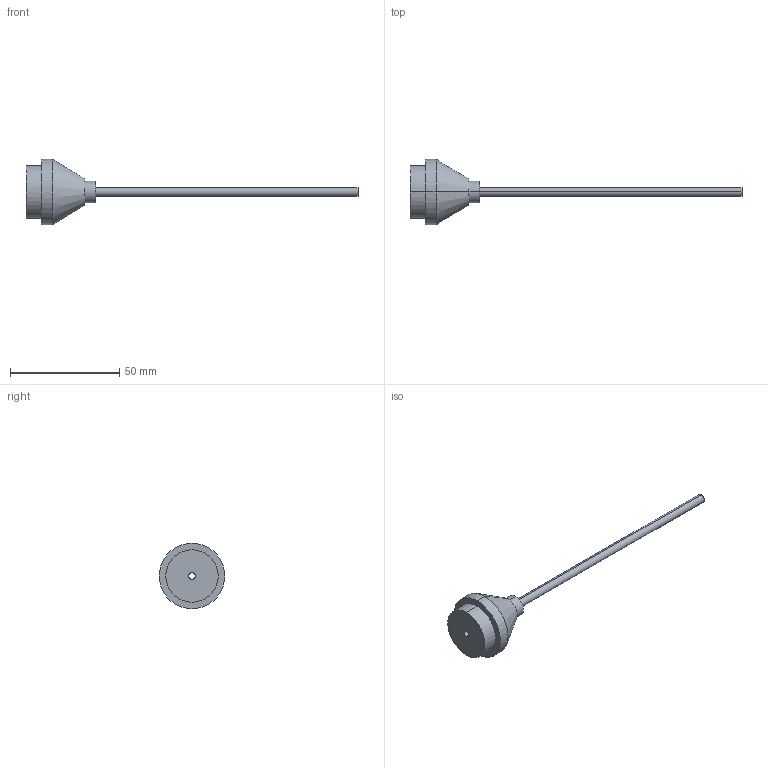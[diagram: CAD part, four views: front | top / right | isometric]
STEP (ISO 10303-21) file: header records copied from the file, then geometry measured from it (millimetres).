
FILE_DESCRIPTION (( 'STEP AP203' ), '1' );
FILE_NAME ('ER-AS12.STEP', '2005-09-05T07:15:30', ( '' ), ( '' ), 'SwSTEP 2.0', 'SolidWorks 2004073', '' );
FILE_SCHEMA (( 'CONFIG_CONTROL_DESIGN' ));
Length unit declared in the file: millimetre
Products named in the file (1): ER-AS12
Bounding box: 152 x 30 x 30 mm (x, y, z)
Volume: 13040.8 mm3; surface area: 6056.5 mm2
Topology: 1 solids, 1 shells, 17 faces, 34 edges, 22 vertices
Faces by surface type: cylinder 10, plane 5, cone 2
Entity records: 535 total; most frequent: DIRECTION 92, CARTESIAN_POINT 74, ORIENTED_EDGE 68, AXIS2_PLACEMENT_3D 40, EDGE_CURVE 34, EDGE_LOOP 22, VERTEX_POINT 22, CIRCLE 22
